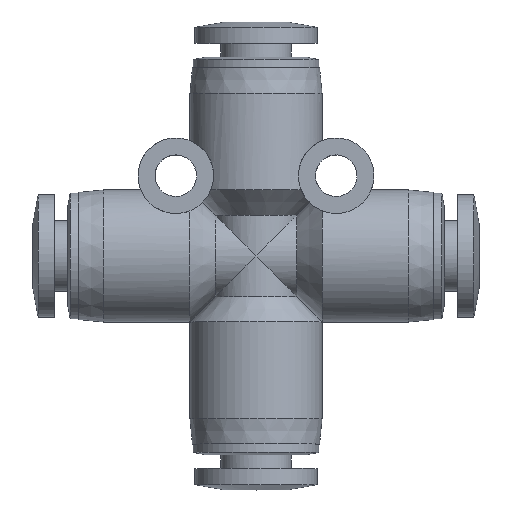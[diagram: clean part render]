
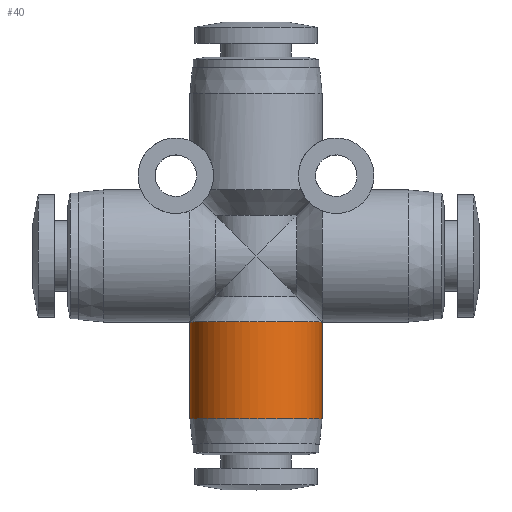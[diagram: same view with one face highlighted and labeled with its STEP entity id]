
A CAD part, top view. The second image highlights one B-rep face of the part: STEP entity #40.
In plain terms, the highlighted cylindrical face has radius 5.25 mm (diameter 10.5 mm), a partial arc.
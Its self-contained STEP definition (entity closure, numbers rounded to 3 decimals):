
#12 = CARTESIAN_POINT ( 'NONE',  ( -4.198, -12.95, 3.226 ) ) ;
#40 = ADVANCED_FACE ( 'NONE', ( #2863 ), #5465, .T. ) ;
#253 = DIRECTION ( 'NONE',  ( 0., 1., 0. ) ) ;
#424 = VERTEX_POINT ( 'NONE', #820 ) ;
#458 = CARTESIAN_POINT ( 'NONE',  ( 5.25, -5.25, 0.687 ) ) ;
#500 = CARTESIAN_POINT ( 'NONE',  ( -5.25, -9.1, 0. ) ) ;
#521 = VERTEX_POINT ( 'NONE', #2627 ) ;
#820 = CARTESIAN_POINT ( 'NONE',  ( -5.25, -12.95, 0. ) ) ;
#894 = VERTEX_POINT ( 'NONE', #5208 ) ;
#1017 = CARTESIAN_POINT ( 'NONE',  ( -0.687, -12.95, 5.25 ) ) ;
#1049 = CARTESIAN_POINT ( 'NONE',  ( 5.25, -12.95, 0. ) ) ;
#1403 = ORIENTED_EDGE ( 'NONE', *, *, #5986, .T. ) ;
#1434 = CARTESIAN_POINT ( 'NONE',  ( -3.226, -5.25, 4.198 ) ) ;
#1466 = CARTESIAN_POINT ( 'NONE',  ( -5.25, -5.25, 0.687 ) ) ;
#1487 = EDGE_CURVE ( 'NONE', #894, #521, #5447, .T. ) ;
#1523 = CARTESIAN_POINT ( 'NONE',  ( 1.374, -12.95, 5.113 ) ) ;
#1770 = CARTESIAN_POINT ( 'NONE',  ( 5.25, -9.1, 0. ) ) ;
#1929 = CARTESIAN_POINT ( 'NONE',  ( -5.25, -12.95, 0.687 ) ) ;
#1939 = CARTESIAN_POINT ( 'NONE',  ( 1.374, -5.25, 5.113 ) ) ;
#1973 = CARTESIAN_POINT ( 'NONE',  ( -4.198, -5.25, 3.226 ) ) ;
#2062 = CARTESIAN_POINT ( 'NONE',  ( -4.587, -12.95, 2.644 ) ) ;
#2431 = CARTESIAN_POINT ( 'NONE',  ( 3.226, -12.95, 4.198 ) ) ;
#2471 = CARTESIAN_POINT ( 'NONE',  ( 0.687, -5.25, 5.25 ) ) ;
#2504 = CARTESIAN_POINT ( 'NONE',  ( 5.113, -5.25, 1.374 ) ) ;
#2536 = CARTESIAN_POINT ( 'NONE',  ( -5.25, -5.25, 0. ) ) ;
#2564 = CARTESIAN_POINT ( 'NONE',  ( -2.644, -12.95, 4.587 ) ) ;
#2610 = LINE ( 'NONE', #500, #6096 ) ;
#2627 = CARTESIAN_POINT ( 'NONE',  ( -5.25, -5.25, 0. ) ) ;
#2668 = ORIENTED_EDGE ( 'NONE', *, *, #5891, .F. ) ;
#2863 = FACE_OUTER_BOUND ( 'NONE', #3103, .T. ) ;
#2964 = CARTESIAN_POINT ( 'NONE',  ( 4.198, -12.95, 3.226 ) ) ;
#3007 = CARTESIAN_POINT ( 'NONE',  ( -0.687, -5.25, 5.25 ) ) ;
#3065 = CARTESIAN_POINT ( 'NONE',  ( -1.374, -12.95, 5.113 ) ) ;
#3096 = CARTESIAN_POINT ( 'NONE',  ( 5.113, -12.95, 1.374 ) ) ;
#3103 = EDGE_LOOP ( 'NONE', ( #5813, #1403, #6186, #2668 ) ) ;
#3506 = B_SPLINE_CURVE_WITH_KNOTS ( 'NONE', 3,
 ( #1049, #4059, #3096, #5133, #2964, #2431, #6110, #1523, #5605, #1017, #3065, #2564, #4595, #12, #2062, #4458, #1929, #3960 ),
 .UNSPECIFIED., .F., .F.,
 ( 4, 2, 2, 2, 2, 2, 2, 2, 4 ),
 ( 0.5, 0.563, 0.625, 0.688, 0.75, 0.813, 0.875, 0.938, 1. ),
 .UNSPECIFIED. ) ;
#3826 = LINE ( 'NONE', #1770, #3834 ) ;
#3834 = VECTOR ( 'NONE', #253, 1000. ) ;
#3885 = DIRECTION ( 'NONE',  ( -1., 0., 0. ) ) ;
#3960 = CARTESIAN_POINT ( 'NONE',  ( -5.25, -12.95, 0. ) ) ;
#4059 = CARTESIAN_POINT ( 'NONE',  ( 5.25, -12.95, 0.687 ) ) ;
#4382 = EDGE_CURVE ( 'NONE', #5114, #424, #3506, .T. ) ;
#4458 = CARTESIAN_POINT ( 'NONE',  ( -5.113, -12.95, 1.374 ) ) ;
#4467 = CARTESIAN_POINT ( 'NONE',  ( 3.226, -5.25, 4.198 ) ) ;
#4537 = CARTESIAN_POINT ( 'NONE',  ( 4.198, -5.25, 3.226 ) ) ;
#4595 = CARTESIAN_POINT ( 'NONE',  ( -3.226, -12.95, 4.198 ) ) ;
#4924 = DIRECTION ( 'NONE',  ( 0., 1., 0. ) ) ;
#4970 = CARTESIAN_POINT ( 'NONE',  ( 5.25, -5.25, 0. ) ) ;
#5041 = CARTESIAN_POINT ( 'NONE',  ( 4.587, -5.25, 2.644 ) ) ;
#5114 = VERTEX_POINT ( 'NONE', #5406 ) ;
#5133 = CARTESIAN_POINT ( 'NONE',  ( 4.587, -12.95, 2.644 ) ) ;
#5208 = CARTESIAN_POINT ( 'NONE',  ( 5.25, -5.25, 0. ) ) ;
#5211 = DIRECTION ( 'NONE',  ( 0., 1., 0. ) ) ;
#5406 = CARTESIAN_POINT ( 'NONE',  ( 5.25, -12.95, 0. ) ) ;
#5447 = B_SPLINE_CURVE_WITH_KNOTS ( 'NONE', 3,
 ( #4970, #458, #2504, #5041, #4537, #4467, #6519, #1939, #2471, #3007, #6019, #6552, #1434, #1973, #6585, #6050, #1466, #2536 ),
 .UNSPECIFIED., .F., .F.,
 ( 4, 2, 2, 2, 2, 2, 2, 2, 4 ),
 ( 0., 0.125, 0.25, 0.375, 0.5, 0.625, 0.75, 0.875, 1. ),
 .UNSPECIFIED. ) ;
#5465 = CYLINDRICAL_SURFACE ( 'NONE', #6059, 5.25 ) ;
#5501 = CARTESIAN_POINT ( 'NONE',  ( 0., -9.1, 0. ) ) ;
#5605 = CARTESIAN_POINT ( 'NONE',  ( 0.687, -12.95, 5.25 ) ) ;
#5813 = ORIENTED_EDGE ( 'NONE', *, *, #4382, .F. ) ;
#5891 = EDGE_CURVE ( 'NONE', #424, #521, #2610, .T. ) ;
#5986 = EDGE_CURVE ( 'NONE', #5114, #894, #3826, .T. ) ;
#6019 = CARTESIAN_POINT ( 'NONE',  ( -1.374, -5.25, 5.113 ) ) ;
#6050 = CARTESIAN_POINT ( 'NONE',  ( -5.113, -5.25, 1.374 ) ) ;
#6059 = AXIS2_PLACEMENT_3D ( 'NONE', #5501, #4924, #3885 ) ;
#6096 = VECTOR ( 'NONE', #5211, 1000. ) ;
#6110 = CARTESIAN_POINT ( 'NONE',  ( 2.644, -12.95, 4.587 ) ) ;
#6186 = ORIENTED_EDGE ( 'NONE', *, *, #1487, .T. ) ;
#6519 = CARTESIAN_POINT ( 'NONE',  ( 2.644, -5.25, 4.587 ) ) ;
#6552 = CARTESIAN_POINT ( 'NONE',  ( -2.644, -5.25, 4.587 ) ) ;
#6585 = CARTESIAN_POINT ( 'NONE',  ( -4.587, -5.25, 2.644 ) ) ;
